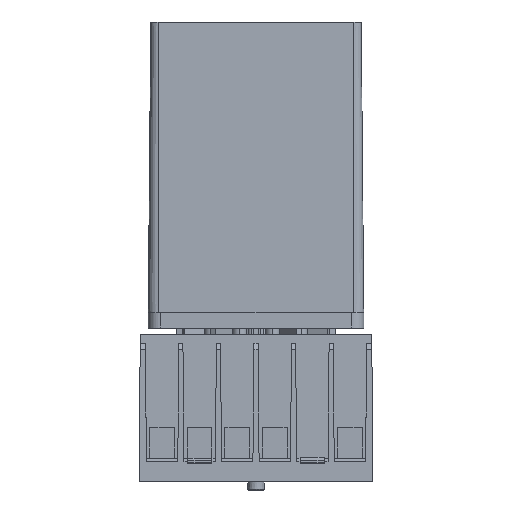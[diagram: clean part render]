
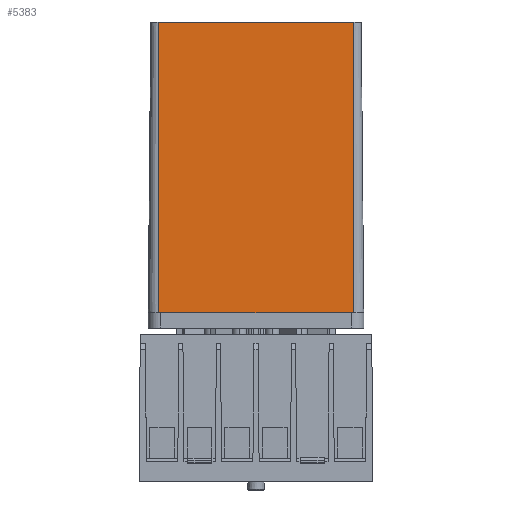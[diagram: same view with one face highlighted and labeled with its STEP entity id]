
A CAD part, front view. The second image highlights one B-rep face of the part: STEP entity #5383.
In plain terms, the highlighted planar face has unit normal (0, -1, 0.009).
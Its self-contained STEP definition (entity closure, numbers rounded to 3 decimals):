
#479 = VECTOR ( 'NONE', #42204, 1000. ) ;
#3380 = CARTESIAN_POINT ( 'NONE',  ( 34.5, 20., 28.8 ) ) ;
#3391 = DIRECTION ( 'NONE',  ( 1., 0., 0. ) ) ;
#3463 = CARTESIAN_POINT ( 'NONE',  ( 19., 20., 28.8 ) ) ;
#3958 = LINE ( 'NONE', #27318, #479 ) ;
#5383 = ADVANCED_FACE ( 'NONE', ( #34970 ), #15128, .T. ) ;
#5494 = ORIENTED_EDGE ( 'NONE', *, *, #44605, .T. ) ;
#11325 = DIRECTION ( 'NONE',  ( 0., -0.009, -1. ) ) ;
#14061 = VERTEX_POINT ( 'NONE', #57310 ) ;
#14698 = VERTEX_POINT ( 'NONE', #3380 ) ;
#15102 = ORIENTED_EDGE ( 'NONE', *, *, #52404, .F. ) ;
#15128 = PLANE ( 'NONE',  #31293 ) ;
#16369 = DIRECTION ( 'NONE',  ( 0., -1., 0.009 ) ) ;
#17094 = DIRECTION ( 'NONE',  ( 0., -0.009, -1. ) ) ;
#18219 = CARTESIAN_POINT ( 'NONE',  ( 3.1, 20.412, 76. ) ) ;
#18549 = VERTEX_POINT ( 'NONE', #39904 ) ;
#19117 = VECTOR ( 'NONE', #31151, 1000. ) ;
#19222 = LINE ( 'NONE', #3463, #54462 ) ;
#19236 = CARTESIAN_POINT ( 'NONE',  ( 3.1, 20., 28.8 ) ) ;
#22305 = LINE ( 'NONE', #18219, #49261 ) ;
#23672 = ORIENTED_EDGE ( 'NONE', *, *, #38561, .T. ) ;
#24019 = EDGE_CURVE ( 'NONE', #18549, #14698, #19222, .T. ) ;
#25370 = CARTESIAN_POINT ( 'NONE',  ( 3.1, 20., 28.8 ) ) ;
#26692 = CARTESIAN_POINT ( 'NONE',  ( 3.1, 20., 28.8 ) ) ;
#27318 = CARTESIAN_POINT ( 'NONE',  ( 3.1, 20., 28.8 ) ) ;
#27890 = VECTOR ( 'NONE', #17094, 1000. ) ;
#30121 = DIRECTION ( 'NONE',  ( 1., 0., 0. ) ) ;
#31151 = DIRECTION ( 'NONE',  ( 0., -0.009, -1. ) ) ;
#31293 = AXIS2_PLACEMENT_3D ( 'NONE', #34353, #16369, #11325 ) ;
#31761 = LINE ( 'NONE', #26692, #19117 ) ;
#31914 = LINE ( 'NONE', #32227, #27890 ) ;
#32227 = CARTESIAN_POINT ( 'NONE',  ( 34.9, 20., 28.8 ) ) ;
#34026 = VECTOR ( 'NONE', #30121, 1000. ) ;
#34353 = CARTESIAN_POINT ( 'NONE',  ( 3.1, 20., 28.8 ) ) ;
#34685 = CARTESIAN_POINT ( 'NONE',  ( 34.9, 20.412, 76. ) ) ;
#34970 = FACE_OUTER_BOUND ( 'NONE', #55809, .T. ) ;
#37617 = EDGE_CURVE ( 'NONE', #58626, #38183, #22305, .T. ) ;
#38183 = VERTEX_POINT ( 'NONE', #34685 ) ;
#38561 = EDGE_CURVE ( 'NONE', #58626, #55893, #31761, .T. ) ;
#39904 = CARTESIAN_POINT ( 'NONE',  ( 3.5, 20., 28.8 ) ) ;
#42204 = DIRECTION ( 'NONE',  ( 1., 0., 0. ) ) ;
#44605 = EDGE_CURVE ( 'NONE', #55893, #18549, #3958, .T. ) ;
#46083 = ORIENTED_EDGE ( 'NONE', *, *, #24019, .T. ) ;
#48891 = LINE ( 'NONE', #25370, #34026 ) ;
#49261 = VECTOR ( 'NONE', #3391, 1000. ) ;
#50018 = CARTESIAN_POINT ( 'NONE',  ( 3.1, 20.412, 76. ) ) ;
#52404 = EDGE_CURVE ( 'NONE', #38183, #14061, #31914, .T. ) ;
#54177 = ORIENTED_EDGE ( 'NONE', *, *, #37617, .F. ) ;
#54327 = ORIENTED_EDGE ( 'NONE', *, *, #59744, .T. ) ;
#54462 = VECTOR ( 'NONE', #57257, 1000. ) ;
#55809 = EDGE_LOOP ( 'NONE', ( #5494, #46083, #54327, #15102, #54177, #23672 ) ) ;
#55893 = VERTEX_POINT ( 'NONE', #19236 ) ;
#57257 = DIRECTION ( 'NONE',  ( 1., 0., 0. ) ) ;
#57310 = CARTESIAN_POINT ( 'NONE',  ( 34.9, 20., 28.8 ) ) ;
#58626 = VERTEX_POINT ( 'NONE', #50018 ) ;
#59744 = EDGE_CURVE ( 'NONE', #14698, #14061, #48891, .T. ) ;
